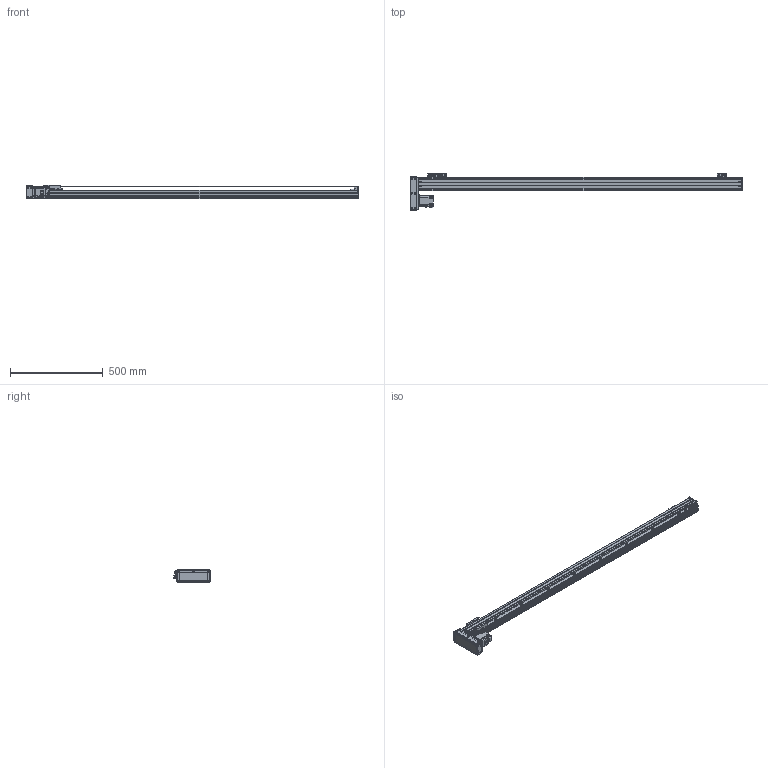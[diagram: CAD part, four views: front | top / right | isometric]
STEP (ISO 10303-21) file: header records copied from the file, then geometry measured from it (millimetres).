
FILE_DESCRIPTION(/* description */ (''),/* implementation_level */ '2;1');
FILE_NAME(/* name */ '\\192.168.0.160\disk1\HAN SHIN Master\B-설계부문\C-표준\B-2024년\BC02-표준도면\+로봇 개선표준도면\표준 승인도 작업 폴더\3D\HG75\HG75병렬\우병렬\HG75-R20-N1B-1800-L10.stp',/* time_stamp */ '2024-02-02T14:37:37+09:00',/* author */ ('User'),/* organization */ (''),/* preprocessor_version */ 'ST-DEVELOPER v18.1',/* originating_system */ 'Autodesk Inventor 2022',/* authorisation */ '');
FILE_SCHEMA (('AUTOMOTIVE_DESIGN { 1 0 10303 214 3 1 1 }'));
Products named in the file (25): HG75-L20-N1B-0500-R10 - 간소화; BASE; HR75 FRONT BLOCK; HR75 REAR COVER-TENTION; HR75 TENSION REAR BLOCK; HG3UPCOV001; H 15F_BLOCK; HG90STOPPER - 20L; HG90STOPPER - 27L; MOTOR PLATE-200W(MITSUBISHI); 화살표; hg-kr23_; M-5HL-4; HR75 W TABLE; LMKE1520 NUT; HR75-LR-BELT COVER(200W); HR75-BELT COVER-COVER2; HR75-BELT COVER-COVER; HR65-BELT COVER-COVER3; HC75-LR-MOTOR PLATE(200W)-사출_MIR; HR65,75 SENSOR DOG; NIPPLE CAP(신규); hsr_ftht_A-M6F_grease_nipple_joint; EE_SX674A; SENSOR BRK(EE-SX674A)
Assembly tree (32 placements, depth 2):
  HG75-L20-N1B-0500-R10 - 간소화
    BASE
    HR75 FRONT BLOCK
    HR75 REAR COVER-TENTION
    HR75 TENSION REAR BLOCK
    HG3UPCOV001
    H 15F_BLOCK
    HG90STOPPER - 20L
    HG90STOPPER - 27L
    MOTOR PLATE-200W(MITSUBISHI)
    화살표  x2
    hg-kr23_
    M-5HL-4
    HR75 W TABLE
    LMKE1520 NUT
    SENSOR BRK(EE-SX674A)  x3
    EE_SX674A  x3
    HR75-LR-BELT COVER(200W)
    HR75-BELT COVER-COVER2
    HR75-BELT COVER-COVER
    HR65-BELT COVER-COVER3  x2
    HC75-LR-MOTOR PLATE(200W)-사출_MIR
    HR65,75 SENSOR DOG
    NIPPLE CAP(신규)  x2
    hsr_ftht_A-M6F_grease_nipple_joint  x2
Bounding box: 1789 x 199 x 73 mm (x, y, z)
Volume: 2530694.4 mm3; surface area: 1182446.1 mm2
Topology: 32 solids, 32 shells, 3140 faces, 8645 edges, 5711 vertices
Faces by surface type: plane 2265, cylinder 690, cone 141, sphere 24, torus 12, bspline 8
Full cylindrical faces by diameter (mm): 1.8 x1, 2 x4, 2.013 x2, 2.459 x16, 2.5 x2, 3 x8, 3.242 x56, 3.4 x20, 3.5 x6, 4.134 x54, 4.5 x22, 4.917 x5, 5 x31, 5.5 x38, 5.6 x10, 5.8 x4, 5.9 x8, 6 x6, 6.5 x5, 7 x1, 8 x1, 9.5 x34, 14 x1, 15 x3, 17 x1, 20 x1, 25 x2, 28 x1, 32 x2, 33.7 x1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
Entity records: 94471 total; most frequent: CARTESIAN_POINT 17049, ORIENTED_EDGE 15664, DIRECTION 14965, EDGE_CURVE 7832, LINE 6289, VECTOR 6289, VERTEX_POINT 5212, AXIS2_PLACEMENT_3D 4338
